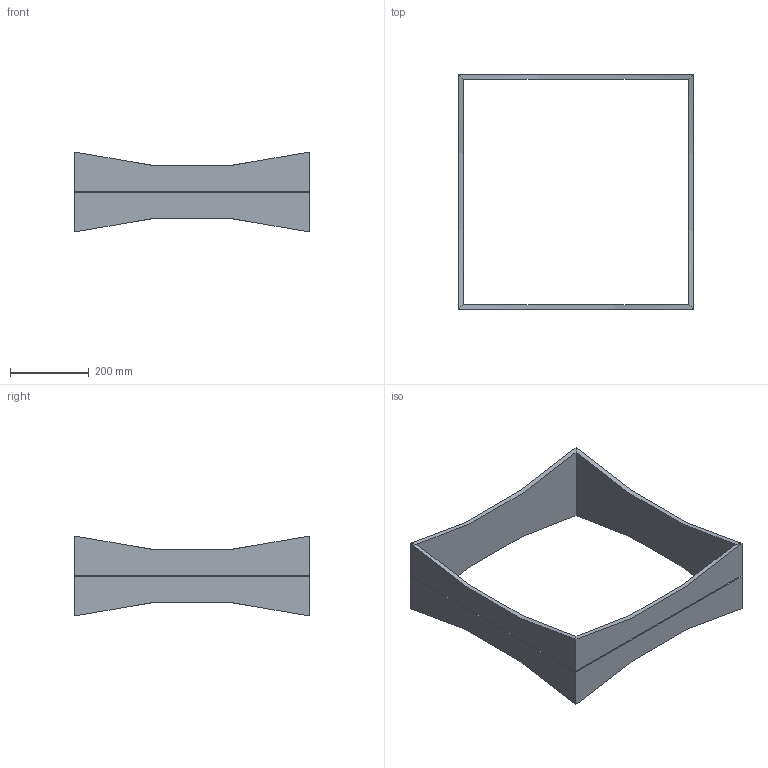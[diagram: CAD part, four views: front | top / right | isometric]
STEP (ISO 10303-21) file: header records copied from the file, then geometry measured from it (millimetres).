
FILE_DESCRIPTION(/* description */ (''),/* implementation_level */ '2;1');
FILE_NAME(/* name */ 'Profile_4',/* time_stamp */ '2026-07-07T12:52:58-05:00',/* author */ (''),/* organization */ (''),/* preprocessor_version */ 'ST-DEVELOPER v19.2',/* originating_system */ 'Rhino 8.32',/* authorisation */ '');
FILE_SCHEMA (('CONFIG_CONTROL_DESIGN'));
Length unit declared in the file: inch
Products named in the file (1): Document
Bounding box: 596.9 x 596.9 x 203.2 mm (x, y, z)
Volume: 4199278 mm3; surface area: 816969.4 mm2
Topology: 4 solids, 4 shells, 40 faces, 97 edges, 64 vertices
Faces by surface type: plane 32, cylinder 8
Entity records: 1209 total; most frequent: CARTESIAN_POINT 348, ORIENTED_EDGE 192, EDGE_CURVE 96, B_SPLINE_CURVE_WITH_KNOTS 80, DIRECTION 79, VERTEX_POINT 64, AXIS2_PLACEMENT_3D 59, ADVANCED_FACE 40
